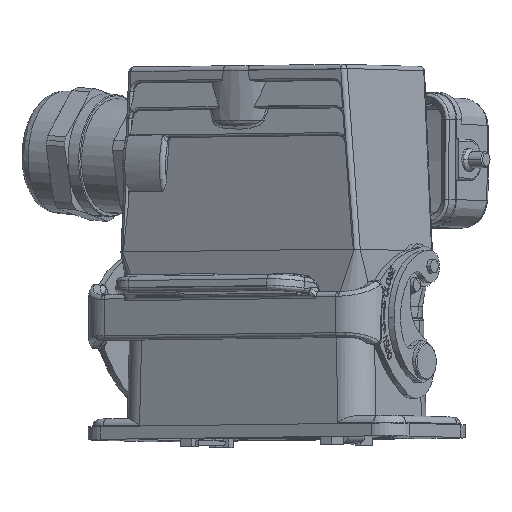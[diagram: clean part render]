
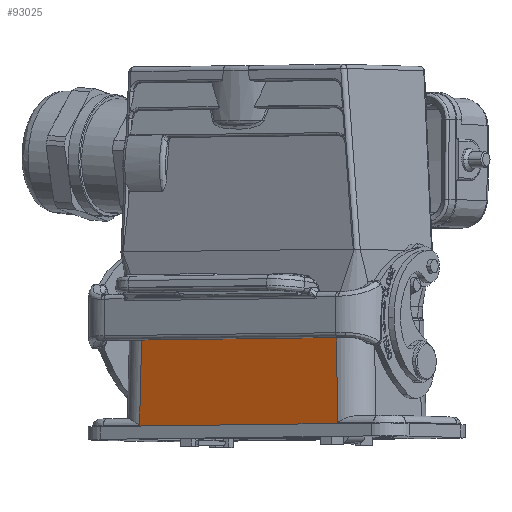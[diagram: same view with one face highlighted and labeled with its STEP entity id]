
A CAD part, top view. The second image highlights one B-rep face of the part: STEP entity #93025.
In plain terms, the highlighted planar face has unit normal (-0.552, 0.032, 0.833) as drawn and (0, 0.035, 0.999) by its records, which use the part's own axes.
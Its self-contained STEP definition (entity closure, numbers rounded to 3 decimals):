
#2437 = EDGE_CURVE ( 'NONE', #126879, #45204, #46625, .T. ) ;
#4040 = CARTESIAN_POINT ( 'NONE',  ( 26.626, -1.313, 15.116 ) ) ;
#5190 = DIRECTION ( 'NONE',  ( -1., 0., 0. ) ) ;
#7946 = ORIENTED_EDGE ( 'NONE', *, *, #2437, .F. ) ;
#11764 = EDGE_CURVE ( 'NONE', #90412, #45204, #90842, .T. ) ;
#12212 = CARTESIAN_POINT ( 'NONE',  ( 0.1, -13.66, 15.547 ) ) ;
#14651 = DIRECTION ( 'NONE',  ( -0.017, 0.999, -0.035 ) ) ;
#15248 = CARTESIAN_POINT ( 'NONE',  ( -35.401, -26.007, 15.978 ) ) ;
#15982 = CARTESIAN_POINT ( 'NONE',  ( -35.365, -23.982, 15.907 ) ) ;
#20133 = CARTESIAN_POINT ( 'NONE',  ( -25.67, -16.426, 15.644 ) ) ;
#20182 = CARTESIAN_POINT ( 'NONE',  ( 25.606, -1.313, 15.116 ) ) ;
#20528 = EDGE_CURVE ( 'NONE', #140679, #62241, #112563, .T. ) ;
#20849 = CARTESIAN_POINT ( 'NONE',  ( -25.406, -1.313, 15.116 ) ) ;
#22088 = VECTOR ( 'NONE', #14651, 1000. ) ;
#22932 = PLANE ( 'NONE',  #41126 ) ;
#24629 = VECTOR ( 'NONE', #110456, 1000. ) ;
#24665 = LINE ( 'NONE', #68196, #22088 ) ;
#28100 = CARTESIAN_POINT ( 'NONE',  ( 26.002, -23.982, 15.907 ) ) ;
#30204 = CARTESIAN_POINT ( 'NONE',  ( 26.002, -23.982, 15.907 ) ) ;
#31614 = LINE ( 'NONE', #54405, #134801 ) ;
#32250 = FACE_OUTER_BOUND ( 'NONE', #60316, .T. ) ;
#36487 = DIRECTION ( 'NONE',  ( 1., 0., 0. ) ) ;
#37044 = VECTOR ( 'NONE', #36487, 1000. ) ;
#41126 = AXIS2_PLACEMENT_3D ( 'NONE', #12212, #112777, #134215 ) ;
#42254 = CARTESIAN_POINT ( 'NONE',  ( -25.802, -23.982, 15.907 ) ) ;
#45204 = VERTEX_POINT ( 'NONE', #28100 ) ;
#46625 = B_SPLINE_CURVE_WITH_KNOTS ( 'NONE', 3,
 ( #20182, #119392, #85127, #30204 ),
 .UNSPECIFIED., .F., .F.,
 ( 4, 4 ),
 ( 0., 1. ),
 .UNSPECIFIED. ) ;
#54405 = CARTESIAN_POINT ( 'NONE',  ( -35.365, -23.982, 15.907 ) ) ;
#56499 = ORIENTED_EDGE ( 'NONE', *, *, #85931, .T. ) ;
#59774 = EDGE_CURVE ( 'NONE', #131518, #109243, #31614, .T. ) ;
#60316 = EDGE_LOOP ( 'NONE', ( #108122, #109439, #56499, #79031, #7946, #113621, #75453, #113730 ) ) ;
#62241 = VERTEX_POINT ( 'NONE', #134890 ) ;
#68196 = CARTESIAN_POINT ( 'NONE',  ( 35.601, -26.007, 15.978 ) ) ;
#69939 = EDGE_CURVE ( 'NONE', #109243, #73462, #77206, .T. ) ;
#72174 = CARTESIAN_POINT ( 'NONE',  ( 0.1, -23.982, 15.907 ) ) ;
#72668 = VECTOR ( 'NONE', #5190, 1000. ) ;
#73462 = VERTEX_POINT ( 'NONE', #117483 ) ;
#75453 = ORIENTED_EDGE ( 'NONE', *, *, #20528, .T. ) ;
#76821 = VECTOR ( 'NONE', #116445, 1000. ) ;
#77206 = LINE ( 'NONE', #79307, #37044 ) ;
#78432 = EDGE_CURVE ( 'NONE', #62241, #131518, #82894, .T. ) ;
#79031 = ORIENTED_EDGE ( 'NONE', *, *, #11764, .T. ) ;
#79307 = CARTESIAN_POINT ( 'NONE',  ( 0.1, -26.007, 15.978 ) ) ;
#82894 = LINE ( 'NONE', #72174, #76821 ) ;
#84532 = CARTESIAN_POINT ( 'NONE',  ( -25.406, -1.313, 15.116 ) ) ;
#85127 = CARTESIAN_POINT ( 'NONE',  ( 25.87, -16.426, 15.644 ) ) ;
#85931 = EDGE_CURVE ( 'NONE', #73462, #90412, #24665, .T. ) ;
#90412 = VERTEX_POINT ( 'NONE', #137031 ) ;
#90842 = LINE ( 'NONE', #125817, #72668 ) ;
#93025 = ADVANCED_FACE ( 'NONE', ( #32250 ), #22932, .T. ) ;
#102380 = EDGE_CURVE ( 'NONE', #140679, #126879, #121865, .T. ) ;
#106510 = CARTESIAN_POINT ( 'NONE',  ( -25.538, -8.87, 15.38 ) ) ;
#108122 = ORIENTED_EDGE ( 'NONE', *, *, #59774, .T. ) ;
#109243 = VERTEX_POINT ( 'NONE', #15248 ) ;
#109439 = ORIENTED_EDGE ( 'NONE', *, *, #69939, .T. ) ;
#110456 = DIRECTION ( 'NONE',  ( 1., 0., 0. ) ) ;
#112563 = B_SPLINE_CURVE_WITH_KNOTS ( 'NONE', 3,
 ( #20849, #106510, #20133, #42254 ),
 .UNSPECIFIED., .F., .F.,
 ( 4, 4 ),
 ( 0., 1. ),
 .UNSPECIFIED. ) ;
#112777 = DIRECTION ( 'NONE',  ( 0., 0.035, 0.999 ) ) ;
#113621 = ORIENTED_EDGE ( 'NONE', *, *, #102380, .F. ) ;
#113730 = ORIENTED_EDGE ( 'NONE', *, *, #78432, .T. ) ;
#116445 = DIRECTION ( 'NONE',  ( -1., 0., 0. ) ) ;
#117483 = CARTESIAN_POINT ( 'NONE',  ( 35.601, -26.007, 15.978 ) ) ;
#119392 = CARTESIAN_POINT ( 'NONE',  ( 25.738, -8.87, 15.38 ) ) ;
#121590 = CARTESIAN_POINT ( 'NONE',  ( 25.606, -1.313, 15.116 ) ) ;
#121865 = LINE ( 'NONE', #4040, #24629 ) ;
#125817 = CARTESIAN_POINT ( 'NONE',  ( 0.1, -23.982, 15.907 ) ) ;
#126879 = VERTEX_POINT ( 'NONE', #121590 ) ;
#130103 = DIRECTION ( 'NONE',  ( -0.017, -0.999, 0.035 ) ) ;
#131518 = VERTEX_POINT ( 'NONE', #15982 ) ;
#134215 = DIRECTION ( 'NONE',  ( 1., 0., 0. ) ) ;
#134801 = VECTOR ( 'NONE', #130103, 1000. ) ;
#134890 = CARTESIAN_POINT ( 'NONE',  ( -25.802, -23.982, 15.907 ) ) ;
#137031 = CARTESIAN_POINT ( 'NONE',  ( 35.565, -23.982, 15.907 ) ) ;
#140679 = VERTEX_POINT ( 'NONE', #84532 ) ;
